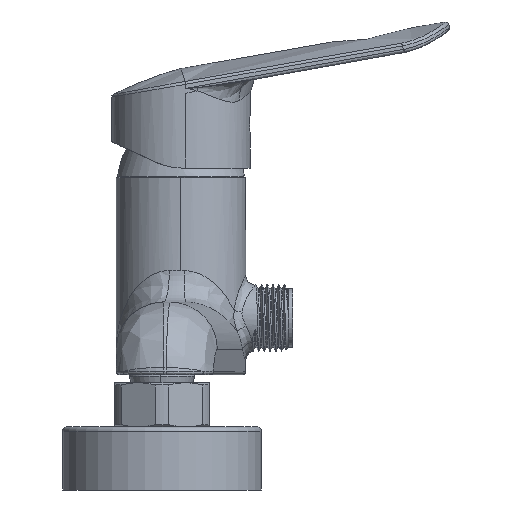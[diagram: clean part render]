
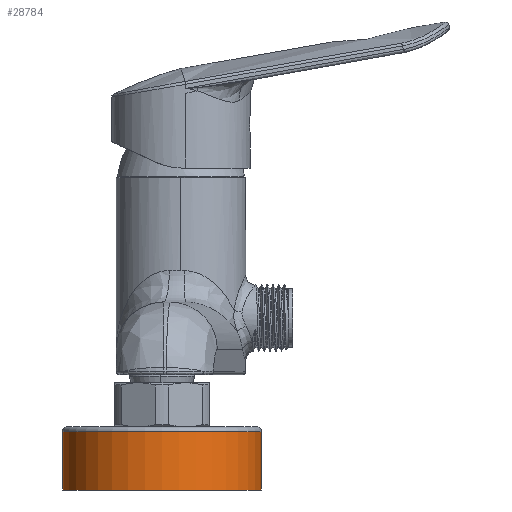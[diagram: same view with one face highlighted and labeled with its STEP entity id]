
A CAD part, left-side view. The second image highlights one B-rep face of the part: STEP entity #28784.
In plain terms, the highlighted cylindrical face has radius 31.5 mm (diameter 63 mm), a partial arc.
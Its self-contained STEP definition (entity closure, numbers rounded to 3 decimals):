
#708=CARTESIAN_POINT('',(-75.,0.,-36.5));
#709=DIRECTION('',(0.,0.,1.));
#710=DIRECTION('',(0.,1.,0.));
#711=AXIS2_PLACEMENT_3D('',#708,#709,#710);
#713=DIRECTION('',(0.,0.,-1.));
#714=VECTOR('',#713,18.5);
#715=CARTESIAN_POINT('',(-75.,31.5,-18.));
#716=LINE('',#715,#714);
#717=DIRECTION('',(0.,0.,-1.));
#718=VECTOR('',#717,18.5);
#719=CARTESIAN_POINT('',(-75.,-31.5,-18.));
#720=LINE('',#719,#718);
#726=CARTESIAN_POINT('',(-75.,0.,-18.));
#727=DIRECTION('',(0.,0.,-1.));
#728=DIRECTION('',(0.,-1.,0.));
#729=AXIS2_PLACEMENT_3D('',#726,#727,#728);
#27775=CARTESIAN_POINT('',(-75.,31.5,-36.5));
#27776=CARTESIAN_POINT('',(-75.,-31.5,-36.5));
#27777=VERTEX_POINT('',#27775);
#27778=VERTEX_POINT('',#27776);
#27787=CARTESIAN_POINT('',(-75.,31.5,-18.));
#27788=VERTEX_POINT('',#27787);
#27789=CARTESIAN_POINT('',(-75.,-31.5,-18.));
#27790=VERTEX_POINT('',#27789);
#28772=CARTESIAN_POINT('',(-75.,0.,-37.5));
#28773=DIRECTION('',(0.,0.,1.));
#28774=DIRECTION('',(0.,-1.,0.));
#28775=AXIS2_PLACEMENT_3D('',#28772,#28773,#28774);
#28776=CYLINDRICAL_SURFACE('',#28775,31.5);
#28777=ORIENTED_EDGE('',*,*,#28762,.F.);
#28779=ORIENTED_EDGE('',*,*,#28778,.F.);
#28780=ORIENTED_EDGE('',*,*,#28765,.T.);
#28781=ORIENTED_EDGE('',*,*,#28748,.F.);
#28782=EDGE_LOOP('',(#28777,#28779,#28780,#28781));
#28783=FACE_OUTER_BOUND('',#28782,.F.);
#28784=ADVANCED_FACE('',(#28783),#28776,.T.);
#712=CIRCLE('',#711,31.5);
#730=CIRCLE('',#729,31.5);
#28748=EDGE_CURVE('',#27777,#27778,#712,.T.);
#28762=EDGE_CURVE('',#27788,#27777,#716,.T.);
#28765=EDGE_CURVE('',#27790,#27778,#720,.T.);
#28778=EDGE_CURVE('',#27790,#27788,#730,.T.);
